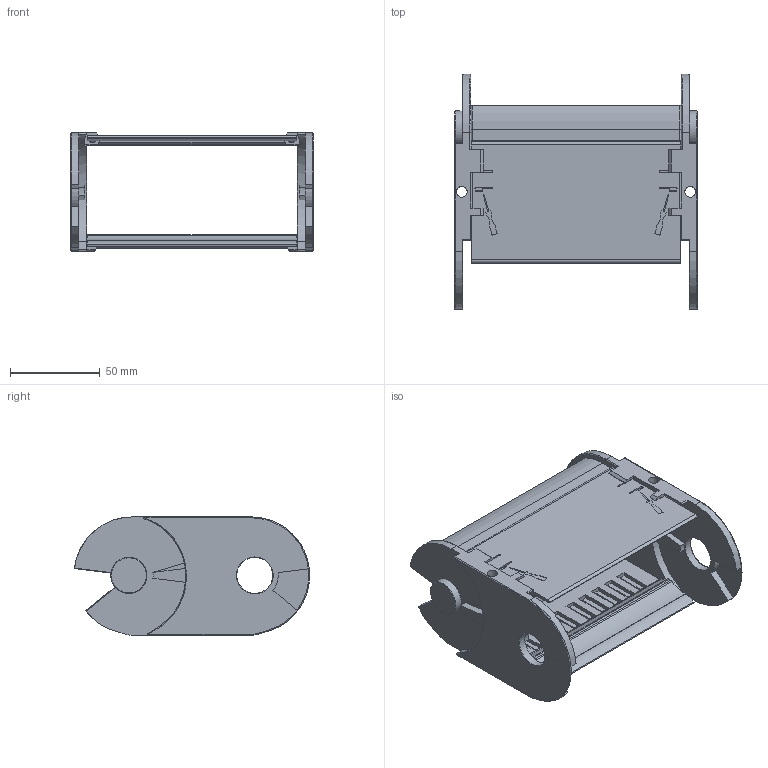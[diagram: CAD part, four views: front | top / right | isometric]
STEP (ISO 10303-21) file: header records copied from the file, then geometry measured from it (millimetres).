
FILE_DESCRIPTION((''),'2;1');
FILE_NAME('C:\Uebbing\PARAMETERKETTEN\KOLIBRI\Kol_65_135_5\Kol_65_135_5.stp','2011-11-02T15:13:48',('Uebbing'),(''),'Autodesk Inventor 10','Autodesk Inventor 10','');
FILE_SCHEMA(('AUTOMOTIVE_DESIGN { 1 0 10303 214 1 1 1 1 }'));
Length unit declared in the file: millimetre
Products named in the file (3): Kol_65_135_5; Kol_65_135_5 Lasche; Kol_65_135_5 Klappdeckel
Assembly tree (2 placements, depth 2):
  Kol_65_135_5
    Kol_65_135_5 Lasche
    Kol_65_135_5 Klappdeckel
Bounding box: 135 x 130.76 x 65.7 mm (x, y, z)
Volume: 118019.7 mm3; surface area: 80884.3 mm2
Topology: 2 solids, 2 shells, 640 faces, 1744 edges, 1115 vertices
Faces by surface type: plane 257, bspline 243, cylinder 113, torus 21, cone 4, sphere 2
Full cylindrical faces by diameter (mm): 2.514 x1, 4 x3, 4.414 x1, 6 x1, 20 x2
Entity records: 21670 total; most frequent: CARTESIAN_POINT 6086, ORIENTED_EDGE 3418, DIRECTION 2903, EDGE_CURVE 1709, VECTOR 1239, LINE 1239, VERTEX_POINT 1104, AXIS2_PLACEMENT_3D 832
